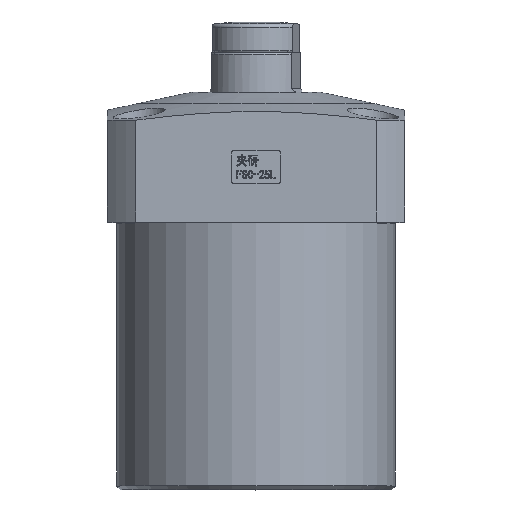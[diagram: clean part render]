
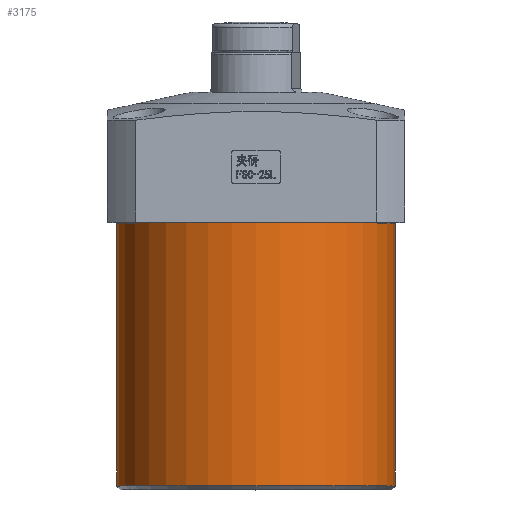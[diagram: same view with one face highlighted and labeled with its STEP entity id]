
A CAD part, top view. The second image highlights one B-rep face of the part: STEP entity #3175.
In plain terms, the highlighted cylindrical face has radius 37.5 mm (diameter 75 mm), a full revolution.
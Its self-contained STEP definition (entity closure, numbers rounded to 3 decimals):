
#3057=CYLINDRICAL_SURFACE('',#8002,37.5);
#3175=ADVANCED_FACE('',(#3617,#3618),#3057,.T.);
#3617=FACE_BOUND('',#3918,.T.);
#3618=FACE_BOUND('',#3919,.T.);
#3918=EDGE_LOOP('',(#4572));
#3919=EDGE_LOOP('',(#4573));
#4572=ORIENTED_EDGE('',*,*,#6971,.F.);
#4573=ORIENTED_EDGE('',*,*,#6970,.T.);
#6274=VERTEX_POINT('',#10860);
#6275=VERTEX_POINT('',#10863);
#6970=EDGE_CURVE('',#6274,#6274,#7756,.T.);
#6971=EDGE_CURVE('',#6275,#6275,#7757,.T.);
#7756=CIRCLE('',#7999,37.5);
#7757=CIRCLE('',#8001,37.5);
#7999=AXIS2_PLACEMENT_3D('',#10859,#8646,#8647);
#8001=AXIS2_PLACEMENT_3D('',#10862,#8650,#8651);
#8002=AXIS2_PLACEMENT_3D('',#10864,#8652,#8653);
#8646=DIRECTION('',(0.,-1.,0.));
#8647=DIRECTION('',(0.,0.,-1.));
#8650=DIRECTION('',(0.,-1.,0.));
#8651=DIRECTION('',(0.,0.,-1.));
#8652=DIRECTION('',(0.,-1.,0.));
#8653=DIRECTION('',(0.,0.,1.));
#10859=CARTESIAN_POINT('',(2.228,20.843,105.022));
#10860=CARTESIAN_POINT('',(2.228,20.843,67.522));
#10862=CARTESIAN_POINT('',(2.228,-49.957,105.022));
#10863=CARTESIAN_POINT('',(2.228,-49.957,67.522));
#10864=CARTESIAN_POINT('',(2.228,-58.128,105.022));
